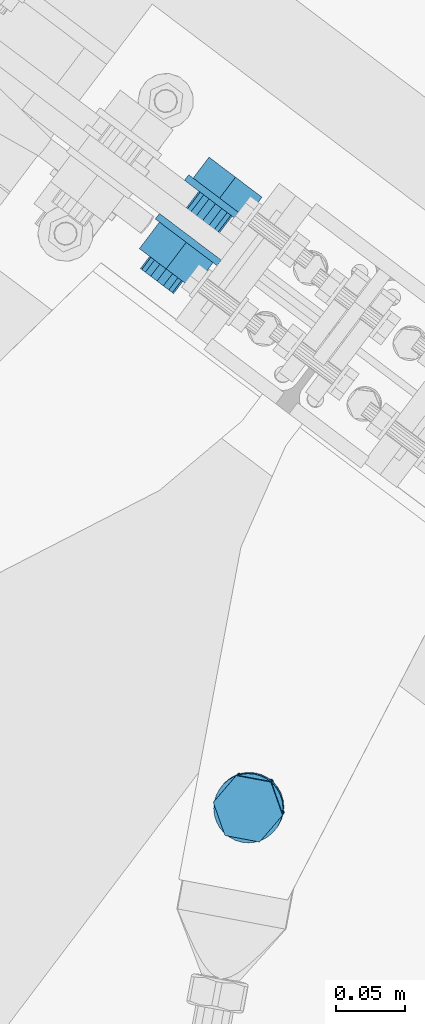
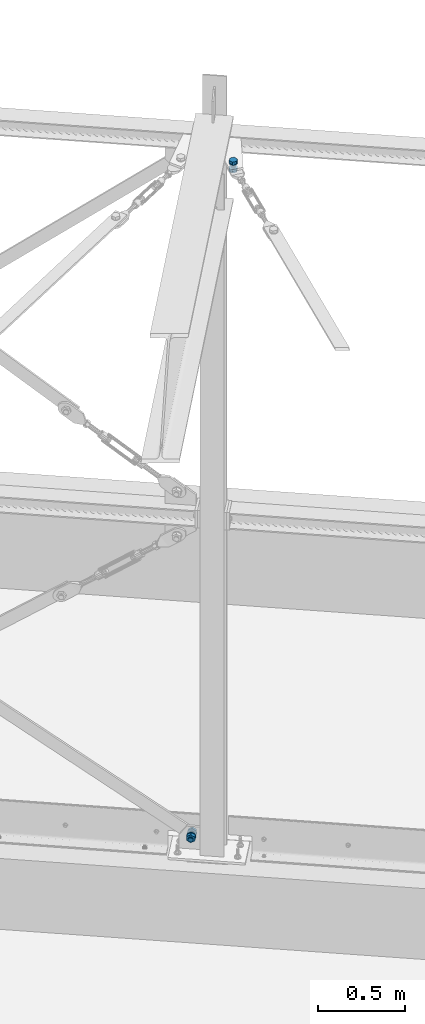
# One storey, part 267 of 476: 2 mechanical fasteners.
"""IFC2X3 building model written with IfcOpenShell, lengths in millimetres."""

from ifc_helpers import new_model, entity, si_unit, converted_unit, origin_with_axes, place, context, project, spatial, faceted_brep, element, save


model = new_model("IFC2X3")

# Units and contexts
model_context = context("Model", 3, precision=1e-09, world=origin_with_axes())
ifc_project = project(units=[si_unit("LENGTHUNIT", "METRE", prefix="MILLI"), si_unit("AREAUNIT", "SQUARE_METRE"), si_unit("VOLUMEUNIT", "CUBIC_METRE"), converted_unit("PLANEANGLEUNIT", "DEGREE", entity("IfcPlaneAngleMeasure", 0.01745329), si_unit("PLANEANGLEUNIT", "RADIAN"), dimensions=[0, 0, 0, 0, 0, 0, 0])], contexts=[model_context])

# Site, building, storey
site_placement = place(None, origin_with_axes())
site = spatial("IfcSite", under=ifc_project, at=site_placement, Name="mKR Teilneubau & Sanierung BA1 - Ostfildern", CompositionType="ELEMENT")
building_placement = place(site_placement, origin_with_axes())
building = spatial("IfcBuilding", under=site, at=building_placement, Name="Struktur 1", CompositionType="ELEMENT")
storey_placement = place(building_placement, origin_with_axes())
storey = spatial("IfcBuildingStorey", under=building, at=storey_placement, Name="Default Storey", CompositionType="ELEMENT", Elevation=0.0)

# Mechanical fasteners
mechanical_fastener_1_placement = place(None, origin_with_axes())
element("IfcMechanicalFastener", 1, at=mechanical_fastener_1_placement, inside=storey, ObjectType="-", NominalDiameter=27.0, NominalLength=70.0, context=model_context, shape_type="Brep", body=[
    faceted_brep([(16423.302201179, 4746.194111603, 5620.231470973), (16423.211720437, 4746.074375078, 5625.229218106), (16427.916688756, 4744.703633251, 5625.281557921), (16428.007169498, 4744.823369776, 5620.283810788), (16432.264198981, 4742.441564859, 5625.306071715), (16432.354679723, 4742.561301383, 5620.308324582), (16436.087178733, 4739.37509992, 5625.301817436), (16436.177659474, 4739.494836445, 5620.304070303), (16439.238713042, 4735.622080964, 5625.268958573), (16439.329193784, 4735.741817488, 5620.271211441), (16441.597690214, 4731.326734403, 5625.208757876), (16441.688170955, 4731.446470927, 5620.211010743), (16443.073456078, 4726.654127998, 5625.123528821), (16443.163936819, 4726.773864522, 5620.125781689), (16443.609297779, 4721.783827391, 5625.016546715), (16443.699778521, 4721.903563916, 5620.018799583), (16443.184623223, 4716.902995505, 5624.89192282), (16443.275103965, 4717.02273203, 5619.894175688), (16441.815752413, 4712.199199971, 5624.754446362), (16441.906233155, 4712.318936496, 5619.756699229), (16439.555290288, 4707.853205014, 5624.609400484), (16439.64577103, 4707.972941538, 5619.611653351), (16436.490105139, 4704.032024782, 5624.462359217), (16436.580585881, 4704.151761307, 5619.464612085), (16432.737990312, 4700.882505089, 5624.318973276), (16432.828471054, 4701.002241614, 5619.321226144), (16428.443137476, 4698.525680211, 5624.184752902), (16428.533618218, 4698.645416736, 5619.18700577), (16423.770595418, 4697.052121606, 5624.064856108), (16423.861076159, 4697.17185813, 5619.067108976), (16418.899927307, 4696.518457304, 5623.963890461), (16418.990408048, 4696.638193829, 5618.966143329), (16414.018310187, 4696.945195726, 5623.885736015), (16414.108790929, 4697.06493225, 5618.887988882), (16409.313341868, 4698.315937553, 5623.833396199), (16409.40382261, 4698.435674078, 5618.835649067), (16404.965831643, 4700.578005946, 5623.808882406), (16405.056312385, 4700.69774247, 5618.811135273), (16401.142851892, 4703.644470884, 5623.813136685), (16401.233332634, 4703.764207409, 5618.815389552), (16397.991317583, 4707.397489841, 5623.845995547), (16398.081798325, 4707.517226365, 5618.848248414), (16395.632340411, 4711.692836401, 5623.906196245), (16395.722821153, 4711.812572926, 5618.908449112), (16394.156574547, 4716.365442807, 5623.991425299), (16394.247055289, 4716.485179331, 5618.993678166), (16393.620732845, 4721.235743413, 5624.098407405), (16393.711213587, 4721.355479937, 5619.100660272), (16394.045407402, 4726.116575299, 5624.2230313), (16394.135888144, 4726.236311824, 5619.225284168), (16395.414278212, 4730.820370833, 5624.360507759), (16395.504758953, 4730.940107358, 5619.362760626), (16397.674740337, 4735.166365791, 5624.505553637), (16397.765221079, 4735.286102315, 5619.507806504), (16400.739925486, 4738.987546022, 5624.652594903), (16400.830406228, 4739.107282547, 5619.65484777), (16404.492040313, 4742.137065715, 5624.795980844), (16404.582521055, 4742.256802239, 5619.798233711), (16408.786893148, 4744.493890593, 5624.930201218), (16408.87737389, 4744.613627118, 5619.932454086), (16413.459435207, 4745.967449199, 5625.050098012), (16413.549915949, 4746.087185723, 5620.052350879), (16418.330103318, 4746.5011135, 5625.151063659), (16418.42058406, 4746.620850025, 5620.153316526)], [[[0, 1, 2, 3]], [[3, 2, 4, 5]], [[5, 4, 6, 7]], [[7, 6, 8, 9]], [[9, 8, 10, 11]], [[11, 10, 12, 13]], [[13, 12, 14, 15]], [[15, 14, 16, 17]], [[17, 16, 18, 19]], [[19, 18, 20, 21]], [[21, 20, 22, 23]], [[23, 22, 24, 25]], [[25, 24, 26, 27]], [[27, 26, 28, 29]], [[29, 28, 30, 31]], [[31, 30, 32, 33]], [[33, 32, 34, 35]], [[35, 34, 36, 37]], [[37, 36, 38, 39]], [[39, 38, 40, 41]], [[41, 40, 42, 43]], [[43, 42, 44, 45]], [[45, 44, 46, 47]], [[47, 46, 48, 49]], [[49, 48, 50, 51]], [[51, 50, 52, 53]], [[53, 52, 54, 55]], [[55, 54, 56, 57]], [[57, 56, 58, 59]], [[59, 58, 60, 61]], [[61, 60, 62, 63]], [[63, 62, 1, 0]], [[2, 1, 62, 60, 58, 56, 54, 52, 50, 48, 46, 44, 42, 40, 38, 36, 34, 32, 30, 28, 26, 24, 22, 20, 18, 16, 14, 12, 10, 8, 6, 4]], [[63, 0, 3, 5, 7, 9, 11, 13, 15, 17, 19, 21, 23, 25, 27, 29, 31, 33, 35, 37, 39, 41, 43, 45, 47, 49, 51, 53, 55, 57, 59, 61]]]),
    faceted_brep([(16426.752488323, 4697.124919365, 5641.128248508), (16427.060122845, 4697.532023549, 5624.135908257), (16443.602306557, 4716.824680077, 5624.897608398), (16443.294672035, 4716.417575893, 5641.889948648), (16435.157199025, 4740.80244193, 5625.319177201), (16434.849564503, 4740.395337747, 5642.311517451), (16410.16990778, 4745.487547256, 5624.979045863), (16409.862273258, 4745.080443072, 5641.971386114), (16393.627724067, 4726.194890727, 5624.217345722), (16393.320089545, 4725.787786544, 5641.209685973), (16402.0728316, 4702.217128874, 5623.795776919), (16401.765197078, 4701.81002469, 5640.78811717)], [[[0, 1, 2, 3]], [[3, 2, 4, 5]], [[5, 4, 6, 7]], [[7, 6, 8, 9]], [[9, 8, 10, 11]], [[11, 10, 1, 0]], [[3, 5, 7, 9, 11, 0]], [[2, 1, 10, 8, 6, 4]]]),
    faceted_brep([(16421.730612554, 4735.612834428, 5589.935364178), (16421.187708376, 4734.894389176, 5619.922936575), (16426.07604679, 4732.932671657, 5619.964437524), (16426.618950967, 4733.651116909, 5589.976865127), (16429.842284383, 4729.250150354, 5619.944396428), (16430.38518856, 4729.968595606, 5589.95682403), (16431.913045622, 4724.407455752, 5619.865864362), (16432.455949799, 4725.125901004, 5589.878291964), (16431.973075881, 4719.141844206, 5619.740797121), (16432.515980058, 4719.860289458, 5589.753224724), (16430.013236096, 4714.254957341, 5619.588235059), (16430.556140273, 4714.973402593, 5589.600662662), (16426.331894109, 4710.490779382, 5619.431404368), (16426.874798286, 4711.209224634, 5589.44383197), (16421.489500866, 4708.422372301, 5619.294181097), (16422.032405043, 4709.140817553, 5589.306608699), (16416.223266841, 4708.364632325, 5619.197456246), (16416.766171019, 4709.083077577, 5589.209883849), (16411.334928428, 4710.326349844, 5619.155955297), (16411.877832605, 4711.044795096, 5589.1683829), (16407.568690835, 4714.008871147, 5619.175996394), (16408.111595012, 4714.727316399, 5589.188423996), (16405.497929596, 4718.851565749, 5619.25452846), (16406.040833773, 4719.570011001, 5589.266956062), (16405.437899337, 4724.117177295, 5619.3795957), (16405.980803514, 4724.835622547, 5589.392023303), (16407.397739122, 4729.00406416, 5619.532157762), (16407.940643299, 4729.722509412, 5589.544585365), (16411.079081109, 4732.76824212, 5619.688988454), (16411.621985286, 4733.486687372, 5589.701416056), (16415.921474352, 4734.836649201, 5619.826211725), (16416.464378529, 4735.555094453, 5589.838639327)], [[[0, 1, 2, 3]], [[3, 2, 4, 5]], [[5, 4, 6, 7]], [[7, 6, 8, 9]], [[9, 8, 10, 11]], [[11, 10, 12, 13]], [[13, 12, 14, 15]], [[15, 14, 16, 17]], [[17, 16, 18, 19]], [[19, 18, 20, 21]], [[21, 20, 22, 23]], [[23, 22, 24, 25]], [[25, 24, 26, 27]], [[27, 26, 28, 29]], [[29, 28, 30, 31]], [[31, 30, 1, 0]], [[2, 1, 30, 28, 26, 24, 22, 20, 18, 16, 14, 12, 10, 8, 6, 4]], [[31, 0, 3, 5, 7, 9, 11, 13, 15, 17, 19, 21, 23, 25, 27, 29]]]),
    faceted_brep([(16423.935577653, 4747.032282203, 5585.246617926), (16423.845096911, 4746.912545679, 5590.244365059), (16428.55006523, 4745.541803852, 5590.296704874), (16428.640545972, 4745.661540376, 5585.298957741), (16432.897575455, 4743.279735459, 5590.321218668), (16432.988056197, 4743.399471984, 5585.323471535), (16436.720555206, 4740.213270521, 5590.316964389), (16436.811035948, 4740.333007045, 5585.319217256), (16439.872089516, 4736.460251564, 5590.284105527), (16439.962570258, 4736.579988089, 5585.286358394), (16442.231066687, 4732.164905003, 5590.223904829), (16442.321547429, 4732.284641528, 5585.226157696), (16443.706832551, 4727.492298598, 5590.138675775), (16443.797313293, 4727.612035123, 5585.140928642), (16444.242674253, 4722.621997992, 5590.031693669), (16444.333154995, 4722.741734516, 5585.033946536), (16443.817999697, 4717.741166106, 5589.907069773), (16443.908480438, 4717.86090263, 5584.909322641), (16442.449128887, 4713.037370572, 5589.769593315), (16442.539609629, 4713.157107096, 5584.771846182), (16440.188666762, 4708.691375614, 5589.624547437), (16440.279147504, 4708.811112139, 5584.626800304), (16437.123481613, 4704.870195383, 5589.47750617), (16437.213962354, 4704.989931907, 5584.479759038), (16433.371366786, 4701.72067569, 5589.33412023), (16433.461847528, 4701.840412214, 5584.336373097), (16429.07651395, 4699.363850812, 5589.199899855), (16429.166994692, 4699.483587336, 5584.202152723), (16424.403971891, 4697.890292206, 5589.080003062), (16424.494452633, 4698.010028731, 5584.082255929), (16419.53330378, 4697.356627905, 5588.979037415), (16419.623784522, 4697.476364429, 5583.981290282), (16414.651686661, 4697.783366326, 5588.900882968), (16414.742167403, 4697.903102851, 5583.903135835), (16409.946718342, 4699.154108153, 5588.848543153), (16410.037199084, 4699.273844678, 5583.85079602), (16405.599208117, 4701.416176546, 5588.824029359), (16405.689688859, 4701.535913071, 5583.826282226), (16401.776228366, 4704.482641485, 5588.828283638), (16401.866709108, 4704.602378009, 5583.830536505), (16398.624694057, 4708.235660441, 5588.8611425), (16398.715174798, 4708.355396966, 5583.863395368), (16396.265716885, 4712.531007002, 5588.921343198), (16396.356197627, 4712.650743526, 5583.923596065), (16394.789951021, 4717.203613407, 5589.006572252), (16394.880431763, 4717.323349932, 5584.008825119), (16394.254109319, 4722.073914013, 5589.113554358), (16394.344590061, 4722.193650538, 5584.115807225), (16394.678783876, 4726.9547459, 5589.238178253), (16394.769264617, 4727.074482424, 5584.240431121), (16396.047654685, 4731.658541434, 5589.375654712), (16396.138135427, 4731.778277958, 5584.377907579), (16398.308116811, 4736.004536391, 5589.52070059), (16398.398597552, 4736.124272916, 5584.522953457), (16401.37330196, 4739.825716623, 5589.667741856), (16401.463782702, 4739.945453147, 5584.669994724), (16405.125416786, 4742.975236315, 5589.811127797), (16405.215897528, 4743.09497284, 5584.813380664), (16409.420269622, 4745.332061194, 5589.945348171), (16409.510750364, 4745.451797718, 5584.947601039), (16414.092811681, 4746.805619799, 5590.065244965), (16414.183292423, 4746.925356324, 5585.067497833), (16418.963479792, 4747.339284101, 5590.166210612), (16419.053960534, 4747.459020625, 5585.168463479)], [[[0, 1, 2, 3]], [[3, 2, 4, 5]], [[5, 4, 6, 7]], [[7, 6, 8, 9]], [[9, 8, 10, 11]], [[11, 10, 12, 13]], [[13, 12, 14, 15]], [[15, 14, 16, 17]], [[17, 16, 18, 19]], [[19, 18, 20, 21]], [[21, 20, 22, 23]], [[23, 22, 24, 25]], [[25, 24, 26, 27]], [[27, 26, 28, 29]], [[29, 28, 30, 31]], [[31, 30, 32, 33]], [[33, 32, 34, 35]], [[35, 34, 36, 37]], [[37, 36, 38, 39]], [[39, 38, 40, 41]], [[41, 40, 42, 43]], [[43, 42, 44, 45]], [[45, 44, 46, 47]], [[47, 46, 48, 49]], [[49, 48, 50, 51]], [[51, 50, 52, 53]], [[53, 52, 54, 55]], [[55, 54, 56, 57]], [[57, 56, 58, 59]], [[59, 58, 60, 61]], [[61, 60, 62, 63]], [[63, 62, 1, 0]], [[2, 1, 62, 60, 58, 56, 54, 52, 50, 48, 46, 44, 42, 40, 38, 36, 34, 32, 30, 28, 26, 24, 22, 20, 18, 16, 14, 12, 10, 8, 6, 4]], [[63, 0, 3, 5, 7, 9, 11, 13, 15, 17, 19, 21, 23, 25, 27, 29, 31, 33, 35, 37, 39, 41, 43, 45, 47, 49, 51, 53, 55, 57, 59, 61]]]),
    faceted_brep([(16427.808891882, 4698.419199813, 5584.152064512), (16428.207007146, 4698.946040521, 5562.161977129), (16444.797987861, 4718.29560754, 5562.925924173), (16444.399872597, 4717.768766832, 5584.916011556), (16436.327968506, 4742.344100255, 5563.348736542), (16435.929853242, 4741.817259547, 5585.338823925), (16411.266968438, 4747.04302595, 5563.007601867), (16410.868853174, 4746.516185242, 5584.99768925), (16394.675987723, 4727.69345893, 5562.243654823), (16394.277872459, 4727.166618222, 5584.233742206), (16403.146007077, 4703.644966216, 5561.820842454), (16402.747891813, 4703.118125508, 5583.810929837)], [[[0, 1, 2, 3]], [[3, 2, 4, 5]], [[5, 4, 6, 7]], [[7, 6, 8, 9]], [[9, 8, 10, 11]], [[11, 10, 1, 0]], [[3, 5, 7, 9, 11, 0]], [[2, 1, 10, 8, 6, 4]]]),
    faceted_brep([(16422.363966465, 4736.450975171, 5554.95175737), (16422.219217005, 4736.259422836, 5562.947063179), (16427.107555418, 4734.297705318, 5562.988564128), (16427.252304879, 4734.489257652, 5554.993258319), (16430.873793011, 4730.615184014, 5562.968523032), (16431.018542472, 4730.806736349, 5554.973217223), (16432.94455425, 4725.772489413, 5562.889990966), (16433.089303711, 4725.964041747, 5554.894685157), (16433.004584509, 4720.506877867, 5562.764923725), (16433.149333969, 4720.698430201, 5554.769617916), (16431.044744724, 4715.619991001, 5562.612361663), (16431.189494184, 4715.811543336, 5554.617055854), (16427.363402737, 4711.855813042, 5562.455530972), (16427.508152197, 4712.047365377, 5554.460225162), (16422.521009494, 4709.787405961, 5562.318307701), (16422.665758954, 4709.978958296, 5554.323001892), (16417.25477547, 4709.729665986, 5562.22158285), (16417.39952493, 4709.92121832, 5554.226277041), (16412.366437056, 4711.691383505, 5562.180081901), (16412.511186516, 4711.882935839, 5554.184776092), (16408.600199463, 4715.373904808, 5562.200122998), (16408.744948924, 4715.565457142, 5554.204817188), (16406.529438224, 4720.21659941, 5562.278655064), (16406.674187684, 4720.408151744, 5554.283349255), (16406.469407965, 4725.482210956, 5562.403722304), (16406.614157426, 4725.67376329, 5554.408416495), (16408.42924775, 4730.369097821, 5562.556284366), (16408.573997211, 4730.560650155, 5554.560978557), (16412.110589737, 4734.13327578, 5562.713115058), (16412.255339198, 4734.324828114, 5554.717809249), (16416.95298298, 4736.201682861, 5562.850338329), (16417.097732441, 4736.393235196, 5554.85503252)], [[[0, 1, 2, 3]], [[3, 2, 4, 5]], [[5, 4, 6, 7]], [[7, 6, 8, 9]], [[9, 8, 10, 11]], [[11, 10, 12, 13]], [[13, 12, 14, 15]], [[15, 14, 16, 17]], [[17, 16, 18, 19]], [[19, 18, 20, 21]], [[21, 20, 22, 23]], [[23, 22, 24, 25]], [[25, 24, 26, 27]], [[27, 26, 28, 29]], [[29, 28, 30, 31]], [[31, 30, 1, 0]], [[2, 1, 30, 28, 26, 24, 22, 20, 18, 16, 14, 12, 10, 8, 6, 4]], [[31, 0, 3, 5, 7, 9, 11, 13, 15, 17, 19, 21, 23, 25, 27, 29]]]),
])
mechanical_fastener_2_placement = place(None, origin_with_axes())
element("IfcMechanicalFastener", 2, at=mechanical_fastener_2_placement, inside=storey, ObjectType="-", NominalDiameter=30.0, NominalLength=75.0, context=model_context, shape_type="Brep", body=[
    faceted_brep([(16417.250656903, 5141.045559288, 635.966259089), (16420.264329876, 5145.03526795, 635.966259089), (16419.83502753, 5145.359546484, 641.428788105), (16416.821354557, 5141.369837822, 641.428788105), (16418.563618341, 5146.319920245, 646.681395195), (16415.549945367, 5142.330211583, 646.681395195), (16416.49896185, 5147.879482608, 651.522225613), (16413.485288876, 5143.889773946, 651.522225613), (16413.720401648, 5149.978300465, 655.765248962), (16410.706728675, 5145.988591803, 655.765248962), (16410.334716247, 5152.535717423, 659.247408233), (16407.321043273, 5148.546008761, 659.247408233), (16406.472015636, 5155.453453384, 661.834885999), (16403.458342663, 5151.463744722, 661.834885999), (16402.280741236, 5158.619381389, 663.42824694), (16399.267068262, 5154.629672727, 663.42824694), (16397.921961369, 5161.911836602, 663.966259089), (16394.908288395, 5157.92212794, 663.966259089), (16393.563181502, 5165.204291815, 663.42824694), (16390.549508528, 5161.214583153, 663.42824694), (16389.371907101, 5168.37021982, 661.834885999), (16386.358234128, 5164.380511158, 661.834885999), (16385.509206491, 5171.287955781, 659.247408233), (16382.495533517, 5167.298247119, 659.247408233), (16382.123521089, 5173.845372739, 655.765248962), (16379.109848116, 5169.855664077, 655.765248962), (16379.344960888, 5175.944190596, 651.522225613), (16376.331287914, 5171.954481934, 651.522225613), (16377.280304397, 5177.503752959, 646.681395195), (16374.266631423, 5173.514044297, 646.681395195), (16376.008895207, 5178.46412672, 641.428788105), (16372.995222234, 5174.474418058, 641.428788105), (16375.579592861, 5178.788405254, 635.966259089), (16372.565919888, 5174.798696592, 635.966259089), (16376.008895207, 5178.46412672, 630.503730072), (16372.995222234, 5174.474418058, 630.503730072), (16377.280304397, 5177.503752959, 625.251122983), (16374.266631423, 5173.514044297, 625.251122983), (16379.344960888, 5175.944190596, 620.410292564), (16376.331287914, 5171.954481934, 620.410292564), (16382.123521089, 5173.845372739, 616.167269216), (16379.109848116, 5169.855664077, 616.167269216), (16385.509206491, 5171.287955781, 612.685109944), (16382.495533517, 5167.298247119, 612.685109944), (16389.371907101, 5168.37021982, 610.097632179), (16386.358234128, 5164.380511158, 610.097632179), (16393.563181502, 5165.204291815, 608.504271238), (16390.549508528, 5161.214583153, 608.504271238), (16397.921961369, 5161.911836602, 607.966259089), (16394.908288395, 5157.92212794, 607.966259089), (16402.280741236, 5158.619381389, 608.504271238), (16399.267068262, 5154.629672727, 608.504271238), (16406.472015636, 5155.453453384, 610.097632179), (16403.458342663, 5151.463744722, 610.097632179), (16410.334716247, 5152.535717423, 612.685109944), (16407.321043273, 5148.546008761, 612.685109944), (16413.720401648, 5149.978300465, 616.167269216), (16410.706728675, 5145.988591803, 616.167269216), (16416.49896185, 5147.879482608, 620.410292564), (16413.485288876, 5143.889773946, 620.410292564), (16418.563618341, 5146.319920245, 625.251122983), (16415.549945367, 5142.330211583, 625.251122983), (16419.83502753, 5145.359546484, 630.503730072), (16416.821354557, 5141.369837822, 630.503730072)], [[[0, 1, 2, 3]], [[3, 2, 4, 5]], [[5, 4, 6, 7]], [[7, 6, 8, 9]], [[9, 8, 10, 11]], [[11, 10, 12, 13]], [[13, 12, 14, 15]], [[15, 14, 16, 17]], [[17, 16, 18, 19]], [[19, 18, 20, 21]], [[21, 20, 22, 23]], [[23, 22, 24, 25]], [[25, 24, 26, 27]], [[27, 26, 28, 29]], [[29, 28, 30, 31]], [[31, 30, 32, 33]], [[33, 32, 34, 35]], [[35, 34, 36, 37]], [[37, 36, 38, 39]], [[39, 38, 40, 41]], [[41, 40, 42, 43]], [[43, 42, 44, 45]], [[45, 44, 46, 47]], [[47, 46, 48, 49]], [[49, 48, 50, 51]], [[51, 50, 52, 53]], [[53, 52, 54, 55]], [[55, 54, 56, 57]], [[57, 56, 58, 59]], [[59, 58, 60, 61]], [[61, 60, 62, 63]], [[63, 62, 1, 0]], [[2, 1, 62, 60, 58, 56, 54, 52, 50, 48, 46, 44, 42, 40, 38, 36, 34, 32, 30, 28, 26, 24, 22, 20, 18, 16, 14, 12, 10, 8, 6, 4]], [[63, 0, 3, 5, 7, 9, 11, 13, 15, 17, 19, 21, 23, 25, 27, 29, 31, 33, 35, 37, 39, 41, 43, 45, 47, 49, 51, 53, 55, 57, 59, 61]]]),
    faceted_brep([(16390.242536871, 5191.523841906, 649.808759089), (16378.790579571, 5176.36294899, 649.808759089), (16397.921961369, 5161.911836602, 663.651259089), (16409.373918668, 5177.072729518, 663.651259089), (16417.053343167, 5147.460724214, 649.808759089), (16428.505300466, 5162.62161713, 649.808759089), (16417.053343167, 5147.460724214, 622.123759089), (16428.505300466, 5162.62161713, 622.123759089), (16397.921961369, 5161.911836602, 608.281259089), (16409.373918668, 5177.072729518, 608.281259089), (16378.790579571, 5176.36294899, 622.123759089), (16390.242536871, 5191.523841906, 622.123759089)], [[[0, 1, 2, 3]], [[3, 2, 4, 5]], [[5, 4, 6, 7]], [[7, 6, 8, 9]], [[9, 8, 10, 11]], [[11, 10, 1, 0]], [[3, 5, 7, 9, 11, 0]], [[2, 1, 10, 8, 6, 4]]]),
    faceted_brep([(16388.794749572, 5124.942027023, 635.966259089), (16406.877414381, 5148.881109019, 635.966259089), (16405.966318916, 5149.569315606, 641.706510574), (16387.883654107, 5125.63023361, 641.706510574), (16403.371738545, 5151.529162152, 646.572860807), (16385.289073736, 5127.590080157, 646.572860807), (16399.48867461, 5154.462279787, 649.824452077), (16381.406009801, 5130.523197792, 649.824452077), (16394.908288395, 5157.92212794, 650.966259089), (16376.825623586, 5133.983045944, 650.966259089), (16390.32790218, 5161.381976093, 649.824452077), (16372.245237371, 5137.442894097, 649.824452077), (16386.444838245, 5164.315093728, 646.572860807), (16368.362173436, 5140.376011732, 646.572860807), (16383.850257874, 5166.274940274, 641.706510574), (16365.767593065, 5142.335858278, 641.706510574), (16382.939162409, 5166.963146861, 635.966259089), (16364.8564976, 5143.024064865, 635.966259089), (16383.850257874, 5166.274940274, 630.226007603), (16365.767593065, 5142.335858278, 630.226007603), (16386.444838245, 5164.315093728, 625.359657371), (16368.362173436, 5140.376011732, 625.359657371), (16390.32790218, 5161.381976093, 622.108066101), (16372.245237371, 5137.442894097, 622.108066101), (16394.908288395, 5157.92212794, 620.966259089), (16376.825623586, 5133.983045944, 620.966259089), (16399.48867461, 5154.462279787, 622.108066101), (16381.406009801, 5130.523197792, 622.108066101), (16403.371738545, 5151.529162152, 625.359657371), (16385.289073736, 5127.590080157, 625.359657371), (16405.966318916, 5149.569315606, 630.226007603), (16387.883654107, 5125.63023361, 630.226007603)], [[[0, 1, 2, 3]], [[3, 2, 4, 5]], [[5, 4, 6, 7]], [[7, 6, 8, 9]], [[9, 8, 10, 11]], [[11, 10, 12, 13]], [[13, 12, 14, 15]], [[15, 14, 16, 17]], [[17, 16, 18, 19]], [[19, 18, 20, 21]], [[21, 20, 22, 23]], [[23, 22, 24, 25]], [[25, 24, 26, 27]], [[27, 26, 28, 29]], [[29, 28, 30, 31]], [[31, 30, 1, 0]], [[2, 1, 30, 28, 26, 24, 22, 20, 18, 16, 14, 12, 10, 8, 6, 4]], [[31, 0, 3, 5, 7, 9, 11, 13, 15, 17, 19, 21, 23, 25, 27, 29]]]),
    faceted_brep([(16396.15431912, 5113.11676863, 635.966259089), (16399.167992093, 5117.106477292, 635.966259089), (16398.738689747, 5117.430755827, 641.428788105), (16395.725016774, 5113.441047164, 641.428788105), (16397.467280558, 5118.391129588, 646.681395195), (16394.453607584, 5114.401420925, 646.681395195), (16395.402624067, 5119.95069195, 651.522225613), (16392.388951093, 5115.960983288, 651.522225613), (16392.624063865, 5122.049509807, 655.765248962), (16389.610390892, 5118.059801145, 655.765248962), (16389.238378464, 5124.606926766, 659.247408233), (16386.22470549, 5120.617218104, 659.247408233), (16385.375677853, 5127.524662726, 661.834885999), (16382.36200488, 5123.534954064, 661.834885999), (16381.184403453, 5130.690590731, 663.42824694), (16378.170730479, 5126.700882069, 663.42824694), (16376.825623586, 5133.983045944, 663.966259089), (16373.811950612, 5129.993337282, 663.966259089), (16372.466843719, 5137.275501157, 663.42824694), (16369.453170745, 5133.285792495, 663.42824694), (16368.275569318, 5140.441429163, 661.834885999), (16365.261896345, 5136.451720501, 661.834885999), (16364.412868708, 5143.359165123, 659.247408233), (16361.399195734, 5139.369456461, 659.247408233), (16361.027183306, 5145.916582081, 655.765248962), (16358.013510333, 5141.926873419, 655.765248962), (16358.248623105, 5148.015399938, 651.522225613), (16355.234950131, 5144.025691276, 651.522225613), (16356.183966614, 5149.574962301, 646.681395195), (16353.17029364, 5145.585253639, 646.681395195), (16354.912557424, 5150.535336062, 641.428788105), (16351.898884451, 5146.5456274, 641.428788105), (16354.483255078, 5150.859614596, 635.966259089), (16351.469582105, 5146.869905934, 635.966259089), (16354.912557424, 5150.535336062, 630.503730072), (16351.898884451, 5146.5456274, 630.503730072), (16356.183966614, 5149.574962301, 625.251122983), (16353.17029364, 5145.585253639, 625.251122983), (16358.248623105, 5148.015399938, 620.410292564), (16355.234950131, 5144.025691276, 620.410292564), (16361.027183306, 5145.916582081, 616.167269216), (16358.013510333, 5141.926873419, 616.167269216), (16364.412868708, 5143.359165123, 612.685109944), (16361.399195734, 5139.369456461, 612.685109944), (16368.275569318, 5140.441429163, 610.097632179), (16365.261896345, 5136.451720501, 610.097632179), (16372.466843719, 5137.275501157, 608.504271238), (16369.453170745, 5133.285792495, 608.504271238), (16376.825623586, 5133.983045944, 607.966259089), (16373.811950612, 5129.993337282, 607.966259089), (16381.184403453, 5130.690590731, 608.504271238), (16378.170730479, 5126.700882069, 608.504271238), (16385.375677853, 5127.524662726, 610.097632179), (16382.36200488, 5123.534954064, 610.097632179), (16389.238378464, 5124.606926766, 612.685109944), (16386.22470549, 5120.617218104, 612.685109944), (16392.624063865, 5122.049509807, 616.167269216), (16389.610390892, 5118.059801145, 616.167269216), (16395.402624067, 5119.95069195, 620.410292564), (16392.388951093, 5115.960983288, 620.410292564), (16397.467280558, 5118.391129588, 625.251122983), (16394.453607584, 5114.401420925, 625.251122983), (16398.738689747, 5117.430755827, 630.503730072), (16395.725016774, 5113.441047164, 630.503730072)], [[[0, 1, 2, 3]], [[3, 2, 4, 5]], [[5, 4, 6, 7]], [[7, 6, 8, 9]], [[9, 8, 10, 11]], [[11, 10, 12, 13]], [[13, 12, 14, 15]], [[15, 14, 16, 17]], [[17, 16, 18, 19]], [[19, 18, 20, 21]], [[21, 20, 22, 23]], [[23, 22, 24, 25]], [[25, 24, 26, 27]], [[27, 26, 28, 29]], [[29, 28, 30, 31]], [[31, 30, 32, 33]], [[33, 32, 34, 35]], [[35, 34, 36, 37]], [[37, 36, 38, 39]], [[39, 38, 40, 41]], [[41, 40, 42, 43]], [[43, 42, 44, 45]], [[45, 44, 46, 47]], [[47, 46, 48, 49]], [[49, 48, 50, 51]], [[51, 50, 52, 53]], [[53, 52, 54, 55]], [[55, 54, 56, 57]], [[57, 56, 58, 59]], [[59, 58, 60, 61]], [[61, 60, 62, 63]], [[63, 62, 1, 0]], [[2, 1, 62, 60, 58, 56, 54, 52, 50, 48, 46, 44, 42, 40, 38, 36, 34, 32, 30, 28, 26, 24, 22, 20, 18, 16, 14, 12, 10, 8, 6, 4]], [[63, 0, 3, 5, 7, 9, 11, 13, 15, 17, 19, 21, 23, 25, 27, 29, 31, 33, 35, 37, 39, 41, 43, 45, 47, 49, 51, 53, 55, 57, 59, 61]]]),
    faceted_brep([(16354.462891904, 5144.608874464, 649.966259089), (16339.997261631, 5125.458272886, 649.966259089), (16359.346320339, 5110.842735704, 663.966259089), (16373.811950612, 5129.993337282, 663.966259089), (16378.695379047, 5096.227198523, 649.966259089), (16393.161009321, 5115.377800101, 649.966259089), (16378.695379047, 5096.227198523, 621.966259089), (16393.161009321, 5115.377800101, 621.966259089), (16359.346320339, 5110.842735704, 607.966259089), (16373.811950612, 5129.993337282, 607.966259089), (16339.997261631, 5125.458272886, 621.966259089), (16354.462891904, 5144.608874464, 621.966259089)], [[[0, 1, 2, 3]], [[3, 2, 4, 5]], [[5, 4, 6, 7]], [[7, 6, 8, 9]], [[9, 8, 10, 11]], [[11, 10, 1, 0]], [[3, 5, 7, 9, 11, 0]], [[2, 1, 10, 8, 6, 4]]]),
    faceted_brep([(16364.685992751, 5093.02518775, 635.966259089), (16371.315446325, 5101.801716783, 635.966259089), (16370.40435086, 5102.48992337, 641.706510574), (16363.774897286, 5093.713394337, 641.706510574), (16367.809770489, 5104.449769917, 646.572860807), (16361.180316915, 5095.673240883, 646.572860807), (16363.926706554, 5107.382887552, 649.824452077), (16357.29725298, 5098.606358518, 649.824452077), (16359.346320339, 5110.842735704, 650.966259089), (16352.716866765, 5102.066206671, 650.966259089), (16354.765934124, 5114.302583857, 649.824452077), (16348.13648055, 5105.526054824, 649.824452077), (16350.882870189, 5117.235701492, 646.572860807), (16344.253416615, 5108.459172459, 646.572860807), (16348.288289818, 5119.195548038, 641.706510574), (16341.658836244, 5110.419019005, 641.706510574), (16347.377194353, 5119.883754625, 635.966259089), (16340.747740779, 5111.107225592, 635.966259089), (16348.288289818, 5119.195548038, 630.226007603), (16341.658836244, 5110.419019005, 630.226007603), (16350.882870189, 5117.235701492, 625.359657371), (16344.253416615, 5108.459172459, 625.359657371), (16354.765934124, 5114.302583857, 622.108066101), (16348.13648055, 5105.526054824, 622.108066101), (16359.346320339, 5110.842735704, 620.966259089), (16352.716866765, 5102.066206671, 620.966259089), (16363.926706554, 5107.382887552, 622.108066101), (16357.29725298, 5098.606358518, 622.108066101), (16367.809770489, 5104.449769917, 625.359657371), (16361.180316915, 5095.673240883, 625.359657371), (16370.40435086, 5102.48992337, 630.226007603), (16363.774897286, 5093.713394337, 630.226007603)], [[[0, 1, 2, 3]], [[3, 2, 4, 5]], [[5, 4, 6, 7]], [[7, 6, 8, 9]], [[9, 8, 10, 11]], [[11, 10, 12, 13]], [[13, 12, 14, 15]], [[15, 14, 16, 17]], [[17, 16, 18, 19]], [[19, 18, 20, 21]], [[21, 20, 22, 23]], [[23, 22, 24, 25]], [[25, 24, 26, 27]], [[27, 26, 28, 29]], [[29, 28, 30, 31]], [[31, 30, 1, 0]], [[2, 1, 30, 28, 26, 24, 22, 20, 18, 16, 14, 12, 10, 8, 6, 4]], [[31, 0, 3, 5, 7, 9, 11, 13, 15, 17, 19, 21, 23, 25, 27, 29]]]),
])

save(model, "model.ifc")
